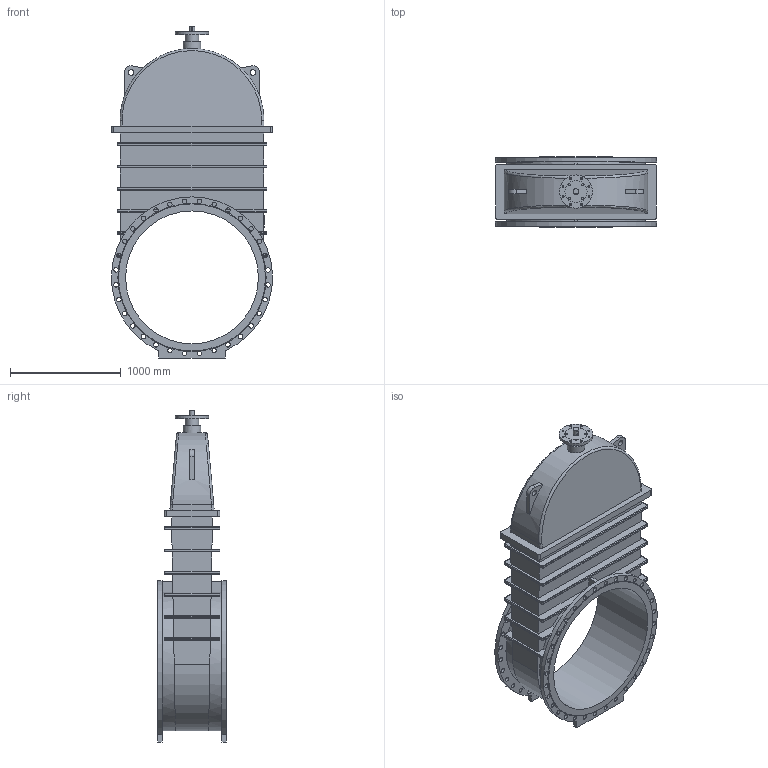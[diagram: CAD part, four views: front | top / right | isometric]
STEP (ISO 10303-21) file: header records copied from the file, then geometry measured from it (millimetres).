
FILE_DESCRIPTION(('STEP AP203'), '1');
FILE_NAME('Çàäâèæêà 47GVA.Z DN1200 PN10 áåç èñïîëíèò. ìåõ.', '', ('UNSPECIFIED'), ('UNSPECIFIED'), 'ASCON STEP Converter 1.6', 'ASCON Math Kernel', '');
FILE_SCHEMA(('CONFIG_CONTROL_DESIGN'));
Length unit declared in the file: millimetre
Bounding box: 1453.67 x 630 x 2997.5 mm (x, y, z)
Volume: 818589932.2 mm3; surface area: 14483399.8 mm2
Topology: 1 solids, 1 shells, 382 faces, 972 edges, 614 vertices
Faces by surface type: cylinder 193, plane 137, bspline 50, cone 2
Full cylindrical faces by diameter (mm): 18 x8, 20 x4, 40 x64, 50 x3, 120 x1, 160 x1, 200 x1, 300 x1, 1200 x1
Entity records: 19572 total; most frequent: CARTESIAN_POINT 7635, ORIENTED_EDGE 1772, DIRECTION 1699, EDGE_CURVE 886, EDGE_LOOP 648, AXIS2_PLACEMENT_3D 642, VERTEX_POINT 614, FACE_BOUND 477
